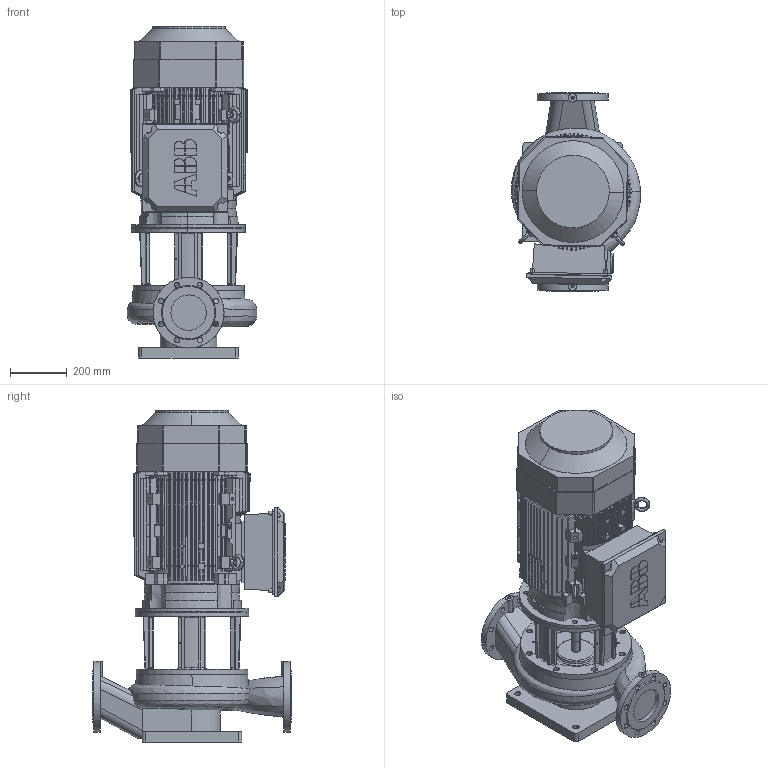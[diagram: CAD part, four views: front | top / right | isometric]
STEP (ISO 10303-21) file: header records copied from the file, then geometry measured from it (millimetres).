
FILE_DESCRIPTION(('STEP AP214'),'1');
FILE_NAME('export.stp','2018-05-30T06:31:33',(' '),(' '),'Spatial InterOp 3D',' ',' ');
FILE_SCHEMA(('AUTOMOTIVE_DESIGN { 1 0 10303 214 1 1 1 1 }'));
Length unit declared in the file: millimetre
Products named in the file (25): V_PPALP1128; PP_ALP1128_kesken; Tukijalka_ALP1128; W_ALP11282SD370; V_TL110611291154; P100907; P100913; P100912; P100911; Hitsi; IEC-200; -simplified-simplified_parts_Sta; 3GZV183002-193006-183002-183999_; 3GZV311000-999999-324000-324001_; -simplified-simplified_parts_Ter; 3GZV244000-310999-294000-299999_; -simplified-simplified_parts_M32; -simplified-simplified_parts_Fan; Implementation-STANDARD_PARTS_Li; ICE200_FRAME; P100781
Assembly tree (25 placements, depth 4):
  W_ALP11282SD370
    V_PPALP1128
      PP_ALP1128_kesken
      Tukijalka_ALP1128
    V_TL110611291154
    P100907
    P100913
      P100912
      P100911
      Hitsi
      Hitsi
    ICE200_FRAME
      IEC-200
        -simplified-simplified_parts_Sta
        3GZV183002-193006-183002-183999_
        3GZV311000-999999-324000-324001_
        -simplified-simplified_parts_Ter
        -simplified-simplified_parts_Ter
        3GZV244000-310999-294000-299999_
        3GZV244000-310999-294000-299999_
        3GZV244000-310999-294000-299999_
        -simplified-simplified_parts_M32
        -simplified-simplified_parts_Fan
        Implementation-STANDARD_PARTS_Li  x2
      P100781
Bounding box: 456.11 x 700 x 1170.53 mm (x, y, z)
Volume: 121618217.5 mm3; surface area: 5821769.2 mm2
Topology: 17 solids, 266 shells, 2174 faces, 6507 edges, 4620 vertices
Faces by surface type: bspline 1711, cylinder 254, plane 89, cone 78, torus 42
Entity records: 117106 total; most frequent: CARTESIAN_POINT 38884, ORIENTED_EDGE 11560, STYLED_ITEM 6358, PRESENTATION_STYLE_ASSIGNMENT 6358, COLOUR_RGB 6358, EDGE_CURVE 6316, VERTEX_POINT 4470, CURVE_STYLE 4201
